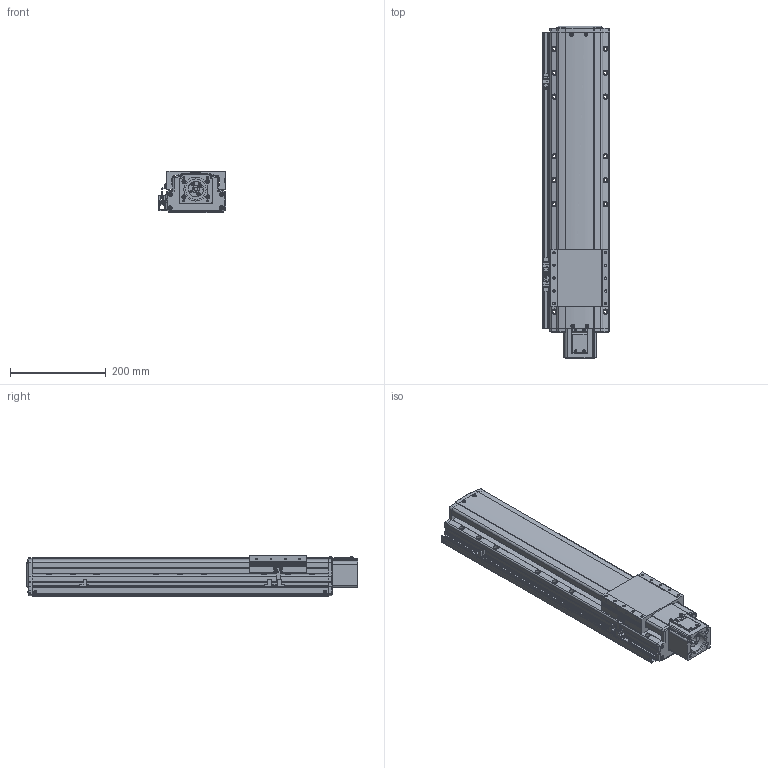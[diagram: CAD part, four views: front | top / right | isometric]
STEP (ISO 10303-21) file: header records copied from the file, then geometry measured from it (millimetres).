
FILE_DESCRIPTION(('STEP AP214'),'1');
FILE_NAME('Z:/Web/3D/PSA125/STP/PSA125-400 (3D)/PSA125ㅁㅁ-400S+3SL.stp','2014-06-22T23:54:17',(' '),(' '),'Spatial InterOp 3D',' ',' ');
FILE_SCHEMA(('automotive_design'));
Length unit declared in the file: millimetre
Products named in the file (53): 스크루 : Round - M4.0 x 10.0; RRCV-PA120; SLIDE; BASE; FRCV-PA120-1(기준 뿔 제거); RR1500; 스크루 : Round - M4.0 x 6.0; 너트 : Square - M10.0 x 220.7419; SSFX-SAN65; CPLCV-SAN65; 스크루 : Round - M3.0 x 6.0; MTHZ-PA120-S60A-3; 스크루 : Socket - M4.0 x 20.0; FRCV; NONE; EE-SX674; SBK-SX674-352; M3.0 x 6.0; SRL-16x17-380L; SGD-PA95; 스크루 : Round - M3.0 x 8.0
Bounding box: 141 x 694.6 x 86 mm (x, y, z)
Volume: 5652200.2 mm3; surface area: 612393.4 mm2
Topology: 53 solids, 87 shells, 3647 faces, 9354 edges, 5924 vertices
Faces by surface type: plane 1818, cylinder 1095, cone 449, torus 174, sphere 70, bspline 41
Entity records: 143746 total; most frequent: CARTESIAN_POINT 23353, DIRECTION 19608, ORIENTED_EDGE 18396, EDGE_CURVE 9198, AXIS2_PLACEMENT_3D 6999, VERTEX_POINT 5924, LINE 5610, VECTOR 5610
